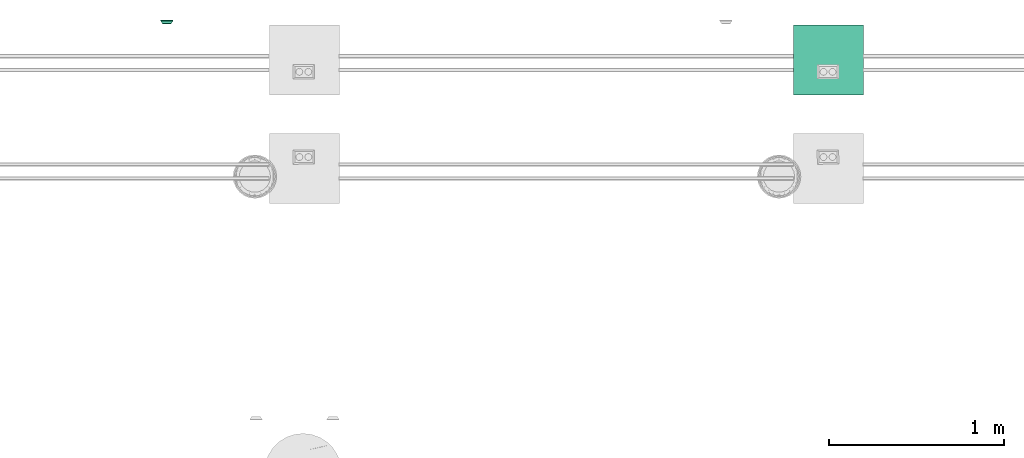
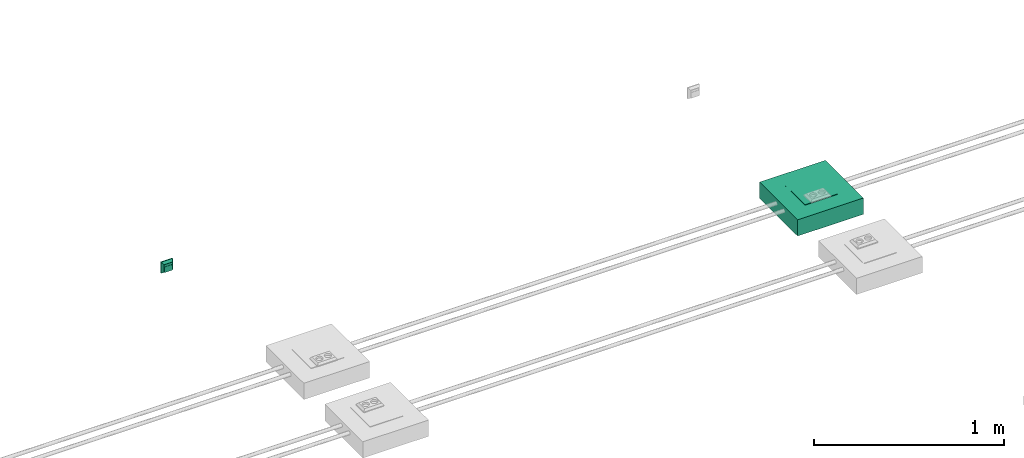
# One storey, part 18 of 24: 2 flow terminals.
"""IFC2X3 building model written with IfcOpenShell, lengths in millimetres."""

from ifc_helpers import new_model, entity, si_unit, converted_unit, derived_unit, direction, frame, origin_with_axes, place, context, subcontext, project, spatial, open_shell, surface_model, source, transform, mapped, type_object, element, save


model = new_model("IFC2X3")

# Units and contexts
model_context = context("Model", 3, precision=0.01, world=frame((0.0, 4.29681676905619e-09, 0.0)), true_north=direction((4.01073788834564e-13, 1.0)))
plan_context = context("Plan", 3, precision=0.01, world=frame((0.0, 4.29681676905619e-09, 0.0)), true_north=direction((4.01073788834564e-13, 1.0)))
body_context = subcontext(model_context, "Body", "Model", "MODEL_VIEW")
ifc_project = project(units=[converted_unit("PLANEANGLEUNIT", "DEGREE", entity("IfcPositiveLengthMeasure", 0.0174532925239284), si_unit("PLANEANGLEUNIT", "RADIAN"), dimensions=[0, 0, 0, 0, 0, 0, 0]), si_unit("AREAUNIT", "SQUARE_METRE"), si_unit("LENGTHUNIT", "METRE", prefix="MILLI"), si_unit("MASSUNIT", "GRAM", prefix="KILO"), si_unit("POWERUNIT", "WATT"), si_unit("PRESSUREUNIT", "PASCAL"), si_unit("FORCEUNIT", "NEWTON", prefix="KILO"), si_unit("ELECTRICVOLTAGEUNIT", "VOLT"), si_unit("ELECTRICCURRENTUNIT", "AMPERE"), si_unit("THERMODYNAMICTEMPERATUREUNIT", "DEGREE_CELSIUS"), si_unit("TIMEUNIT", "SECOND"), si_unit("VOLUMEUNIT", "CUBIC_METRE"), derived_unit("LINEARVELOCITYUNIT", [(si_unit("LENGTHUNIT", "METRE"), 1), (si_unit("TIMEUNIT", "SECOND"), -1)]), derived_unit("VOLUMETRICFLOWRATEUNIT", [(si_unit("VOLUMEUNIT", "CUBIC_METRE"), 1), (si_unit("TIMEUNIT", "SECOND"), -1)]), derived_unit("THERMALTRANSMITTANCEUNIT", [(si_unit("POWERUNIT", "WATT"), 1), (si_unit("THERMODYNAMICTEMPERATUREUNIT", "KELVIN"), -1), (si_unit("AREAUNIT", "SQUARE_METRE"), -1)]), derived_unit("SOUNDPRESSUREUNIT", [(si_unit("PRESSUREUNIT", "PASCAL"), 1)])], contexts=[model_context, plan_context])

# Site, building, storey
site_placement = place(None, frame((0.0, -4.29681676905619e-09, 0.0), z_axis=(0.0, 0.0, 1.0), x_axis=(1.0, 0.0, 0.0)))
site = spatial("IfcSite", under=ifc_project, at=site_placement, Name="ENGM", CompositionType="ELEMENT")
building_placement = place(site_placement, frame((0.0, 4.29681676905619e-09, 0.0), z_axis=(0.0, 0.0, 1.0), x_axis=(1.0, 0.0, 0.0)))
building = spatial("IfcBuilding", under=site, at=building_placement, Name="TH", CompositionType="ELEMENT")
storey_placement = place(building_placement, frame((0.0, 0.0, 210200.0), z_axis=(0.0, 0.0, 1.0), x_axis=(1.0, 0.0, 0.0)))
storey = spatial("IfcBuildingStorey", under=building, at=storey_placement, Name="Nivå F - 0,7 m", CompositionType="ELEMENT", Elevation=210200.0)

# Flow terminals
electric_appliance_type = type_object("IfcElectricApplianceType", Name="Gulvboks 400x400", PredefinedType="NOTDEFINED")
shared_shape_1 = source(origin_with_axes(), body_context, "Body", "SurfaceModel", [
    surface_model("IfcShellBasedSurfaceModel", [(199.96, -199.96, -8.96812), (199.96, 200.0, -8.96812), (-200.0, 200.0, -8.96812), (-200.0, -199.96, -8.96812), (-200.0, -199.96, -108.96812), (-200.0, 200.0, -108.96812), (199.96, -199.96, -108.96812), (199.96, 200.0, -108.96812), (99.91278, -102.96181, -1.48406), (99.91278, 100.0, -1.48406), (-100.0, -102.96181, -1.48406), (-100.0, 100.0, -1.48406), (-100.0, -102.96181, -4.48406), (-100.0, 100.0, -4.48406), (99.91278, 100.0, -4.48406), (99.91278, -102.96181, -4.48406), (199.96, -199.96, -4.48406), (199.96, 200.0, -4.48406), (-200.0, 200.0, -4.48406), (-200.0, -199.96, -4.48406), (-200.0, -199.96, -104.48406), (-200.0, 200.0, -104.48406), (199.96, -199.96, -104.48406), (199.96, 200.0, -104.48406)], [open_shell([[[0, 1, 2]], [[2, 3, 0]], [[4, 5, 6]], [[7, 6, 5]], [[2, 1, 7]], [[7, 5, 2]], [[3, 2, 5]], [[5, 4, 3]], [[0, 3, 4]], [[4, 6, 0]], [[1, 0, 6]], [[6, 7, 1]], [[8, 9, 10]], [[11, 10, 9]], [[12, 13, 14]], [[14, 15, 12]], [[11, 9, 14]], [[14, 13, 11]], [[10, 11, 13]], [[13, 12, 10]], [[8, 10, 12]], [[12, 15, 8]], [[9, 8, 15]], [[15, 14, 9]], [[16, 17, 18]], [[18, 19, 16]], [[20, 21, 22]], [[23, 22, 21]], [[18, 17, 23]], [[23, 21, 18]], [[19, 18, 21]], [[21, 20, 19]], [[16, 19, 20]], [[20, 22, 16]], [[17, 16, 22]], [[22, 23, 17]]])]),
])
flow_terminal_1_placement = place(storey_placement, frame((906999.725, 486999.56407, 1.5), z_axis=(0.0, 0.0, 1.0), x_axis=(1.0, 0.0, 0.0)))
element("IfcFlowTerminal", 1, at=flow_terminal_1_placement, inside=storey, type_object=electric_appliance_type, Name="Gulvboks 400x400", context=body_context, shape_type="MappedRepresentation", body=[
    mapped(shared_shape_1, transform((0.0, 0.0, 0.0), scale=1.0)),
])
outlet_type = type_object("IfcOutletType", Name="Datauttak enkelt Vegg - IKT", PredefinedType="COMMUNICATIONSOUTLET")
shared_shape_2 = source(origin_with_axes(), body_context, "Body", "SurfaceModel", [
    surface_model("IfcShellBasedSurfaceModel", [(35.5, 5.05547, 35.5832), (25.5, 20.05547, 25.5832), (-35.5, 5.05547, 35.5832), (-25.5, 20.05547, 25.5832), (-35.5, 4.94453, 35.41679), (-25.5, 19.94453, 25.41679), (25.5, 19.94453, 25.41679), (35.5, 4.94453, 35.41679), (35.5, 4.94453, -35.41679), (25.5, 19.94453, -25.41679), (-35.5, 4.94453, -35.41679), (-25.5, 19.94453, -25.41679), (-35.5, 5.05547, -35.5832), (-25.5, 20.05547, -25.5832), (25.5, 20.05547, -25.5832), (35.5, 5.05547, -35.5832), (-25.5832, 20.05547, -25.5), (-35.5832, 5.05547, -35.5), (-35.5832, 5.05547, 35.5), (-25.5832, 20.05547, 25.5), (-25.41679, 19.94453, 25.5), (-35.41679, 4.94453, 35.5), (-25.41679, 19.94453, -25.5), (-35.41679, 4.94453, -35.5), (25.41679, 19.94453, -25.5), (35.41679, 4.94453, -35.5), (35.41679, 4.94453, 35.5), (25.41679, 19.94453, 25.5), (25.5832, 20.05547, 25.5), (35.5832, 5.05547, 35.5), (25.5832, 20.05547, -25.5), (35.5832, 5.05547, -35.5), (35.4, 5.0, -35.5), (35.4, 0.0, -35.5), (35.4, 0.0, 35.5), (35.4, 5.0, 35.5), (35.6, 5.0, 35.5), (35.6, 0.0, 35.5), (35.6, 0.0, -35.5), (35.6, 5.0, -35.5), (-35.5, 0.0, -35.6), (-35.5, 5.0, -35.6), (35.5, 5.0, -35.6), (35.5, 0.0, -35.6), (35.5, 0.0, -35.4), (35.5, 5.0, -35.4), (-35.5, 5.0, -35.4), (-35.5, 0.0, -35.4), (-35.6, 5.0, -35.5), (-35.6, 0.0, -35.5), (-35.6, 0.0, 35.5), (-35.6, 5.0, 35.5), (-35.4, 5.0, 35.5), (-35.4, 0.0, 35.5), (-35.4, 0.0, -35.5), (-35.4, 5.0, -35.5), (-35.5, -0.1, -35.5), (35.5, -0.1, -35.5), (35.5, -0.1, 35.5), (-35.5, -0.1, 35.5), (-35.5, 0.1, 35.5), (35.5, 0.1, 35.5), (35.5, 0.1, -35.5), (-35.5, 0.1, -35.5), (-35.5, 0.0, 35.4), (-35.5, 5.0, 35.4), (35.5, 5.0, 35.4), (35.5, 0.0, 35.4), (35.5, 0.0, 35.6), (35.5, 5.0, 35.6), (-35.5, 5.0, 35.6), (-35.5, 0.0, 35.6), (-25.5, 19.9, -25.5), (25.5, 19.9, -25.5), (25.5, 19.9, 25.5), (-25.5, 19.9, 25.5), (-25.5, 20.1, 25.5), (25.5, 20.1, 25.5), (25.5, 20.1, -25.5), (-25.5, 20.1, -25.5), (-25.5, 22.0, 25.5), (-25.5, 20.0, 25.5), (25.5, 20.0, 25.5), (25.5, 22.0, 25.5), (25.5, 22.0, 20.5), (25.5, 20.0, 20.5), (-25.5, 20.0, 20.5), (-25.5, 22.0, 20.5), (-25.5, 22.0, 10.5), (-25.5, 20.0, 10.5), (25.5, 20.0, 10.5), (25.5, 22.0, 10.5), (25.5, 22.0, -25.5), (25.5, 20.0, -25.5), (-25.5, 20.0, -25.5), (-25.5, 22.0, -25.5), (-7.5, 21.91, -6.5), (7.5, 21.91, -6.5), (7.5, 21.91, 8.5), (-7.5, 21.91, 8.5), (-7.5, 22.11, 8.5), (7.5, 22.11, 8.5), (-7.5, 22.11, -6.5), (7.5, 22.11, -6.5)], [open_shell([[[0, 1, 2]], [[3, 2, 1]], [[4, 5, 6]], [[6, 7, 4]], [[3, 1, 6]], [[6, 5, 3]], [[2, 3, 4]], [[5, 4, 3]], [[0, 2, 7]], [[4, 7, 2]], [[1, 0, 6]], [[7, 6, 0]], [[8, 9, 10]], [[11, 10, 9]], [[12, 13, 14]], [[14, 15, 12]], [[11, 9, 14]], [[14, 13, 11]], [[10, 11, 12]], [[13, 12, 11]], [[8, 10, 12]], [[12, 15, 8]], [[9, 8, 14]], [[15, 14, 8]], [[16, 17, 18]], [[18, 19, 16]], [[20, 21, 22]], [[23, 22, 21]], [[18, 17, 23]], [[23, 21, 18]], [[19, 18, 20]], [[21, 20, 18]], [[16, 19, 20]], [[20, 22, 16]], [[17, 16, 22]], [[22, 23, 17]], [[24, 25, 26]], [[26, 27, 24]], [[28, 29, 30]], [[31, 30, 29]], [[26, 25, 31]], [[31, 29, 26]], [[27, 26, 28]], [[29, 28, 26]], [[24, 27, 28]], [[28, 30, 24]], [[25, 24, 30]], [[30, 31, 25]], [[32, 33, 34]], [[34, 35, 32]], [[36, 37, 38]], [[38, 39, 36]], [[34, 33, 38]], [[38, 37, 34]], [[35, 34, 37]], [[37, 36, 35]], [[32, 35, 36]], [[36, 39, 32]], [[33, 32, 39]], [[39, 38, 33]], [[40, 41, 42]], [[42, 43, 40]], [[44, 45, 46]], [[46, 47, 44]], [[42, 41, 46]], [[46, 45, 42]], [[43, 42, 45]], [[45, 44, 43]], [[40, 43, 44]], [[44, 47, 40]], [[41, 40, 47]], [[47, 46, 41]], [[48, 49, 50]], [[50, 51, 48]], [[52, 53, 54]], [[54, 55, 52]], [[50, 49, 54]], [[54, 53, 50]], [[51, 50, 53]], [[53, 52, 51]], [[48, 51, 52]], [[52, 55, 48]], [[49, 48, 55]], [[55, 54, 49]], [[56, 57, 58]], [[58, 59, 56]], [[60, 61, 62]], [[62, 63, 60]], [[58, 57, 62]], [[62, 61, 58]], [[59, 58, 61]], [[61, 60, 59]], [[56, 59, 60]], [[60, 63, 56]], [[57, 56, 63]], [[63, 62, 57]], [[64, 65, 66]], [[66, 67, 64]], [[68, 69, 70]], [[70, 71, 68]], [[66, 65, 70]], [[70, 69, 66]], [[67, 66, 69]], [[69, 68, 67]], [[64, 67, 68]], [[68, 71, 64]], [[65, 64, 71]], [[71, 70, 65]], [[72, 73, 74]], [[74, 75, 72]], [[76, 77, 78]], [[78, 79, 76]], [[74, 73, 78]], [[78, 77, 74]], [[75, 74, 77]], [[77, 76, 75]], [[72, 75, 76]], [[76, 79, 72]], [[73, 72, 79]], [[79, 78, 73]], [[80, 81, 82]], [[82, 83, 80]], [[84, 85, 86]], [[86, 87, 84]], [[82, 81, 86]], [[86, 85, 82]], [[83, 82, 85]], [[85, 84, 83]], [[80, 83, 84]], [[84, 87, 80]], [[81, 80, 87]], [[87, 86, 81]], [[88, 89, 90]], [[90, 91, 88]], [[92, 93, 94]], [[94, 95, 92]], [[90, 89, 94]], [[94, 93, 90]], [[91, 90, 93]], [[93, 92, 91]], [[88, 91, 92]], [[92, 95, 88]], [[89, 88, 95]], [[95, 94, 89]], [[96, 97, 98]], [[98, 99, 96]], [[100, 101, 102]], [[103, 102, 101]], [[98, 97, 103]], [[103, 101, 98]], [[99, 98, 101]], [[101, 100, 99]], [[96, 99, 100]], [[100, 102, 96]], [[97, 96, 102]], [[102, 103, 97]]])]),
])
flow_terminal_2_placement = place(storey_placement, frame((903212.58742, 487228.81682, 700.0), z_axis=(0.0, 0.0, 1.0), x_axis=(-1.0, 0.0, 0.0)))
element("IfcFlowTerminal", 2, at=flow_terminal_2_placement, inside=storey, type_object=outlet_type, Name="Datauttak enkelt Vegg - IKT", context=body_context, shape_type="MappedRepresentation", body=[
    mapped(shared_shape_2, transform((0.0, 0.0, 0.0), scale=1.0)),
])

save(model, "model.ifc")
